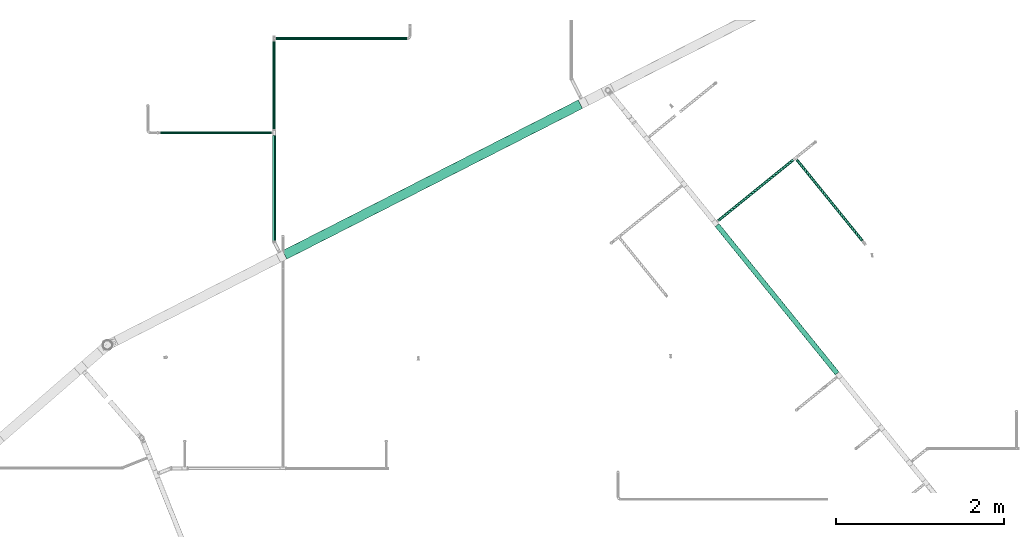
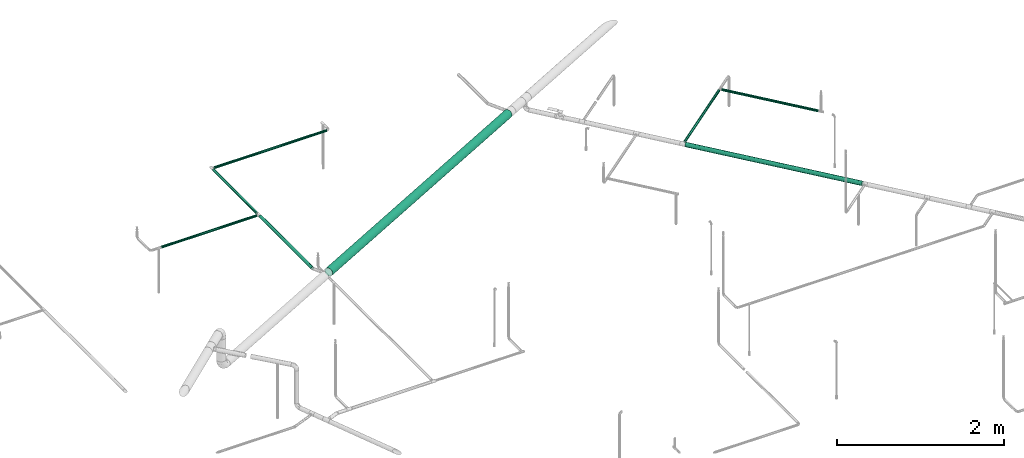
# One storey, part 5 of 94: 8 flow segments.
"""IFC2X3 building model written with IfcOpenShell, lengths in millimetres."""

from ifc_helpers import new_model, entity, si_unit, converted_unit, derived_unit, direction, frame, origin_with_axes, origin_2d_with_axis, place, context, subcontext, project, spatial, hollow_circle, extrude, source, transform, mapped, type_object, element, save


model = new_model("IFC2X3")

# Units and contexts
model_context = context("Model", 3, precision=0.01, world=frame((0.0, 4.29681676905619e-09, 0.0)), true_north=direction((4.01073788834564e-13, 1.0)))
plan_context = context("Plan", 3, precision=0.01, world=frame((0.0, 4.29681676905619e-09, 0.0)), true_north=direction((4.01073788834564e-13, 1.0)))
body_context = subcontext(model_context, "Body", "Model", "MODEL_VIEW")
ifc_project = project(units=[converted_unit("PLANEANGLEUNIT", "DEGREE", entity("IfcPositiveLengthMeasure", 0.0174532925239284), si_unit("PLANEANGLEUNIT", "RADIAN"), dimensions=[0, 0, 0, 0, 0, 0, 0]), si_unit("AREAUNIT", "SQUARE_METRE"), si_unit("LENGTHUNIT", "METRE", prefix="MILLI"), si_unit("MASSUNIT", "GRAM", prefix="KILO"), si_unit("POWERUNIT", "WATT"), si_unit("PRESSUREUNIT", "PASCAL", prefix="KILO"), si_unit("FORCEUNIT", "NEWTON", prefix="KILO"), si_unit("ELECTRICVOLTAGEUNIT", "VOLT"), si_unit("ELECTRICCURRENTUNIT", "AMPERE"), si_unit("THERMODYNAMICTEMPERATUREUNIT", "DEGREE_CELSIUS"), si_unit("TIMEUNIT", "SECOND"), si_unit("VOLUMEUNIT", "CUBIC_METRE"), derived_unit("LINEARVELOCITYUNIT", [(si_unit("LENGTHUNIT", "METRE"), 1), (si_unit("TIMEUNIT", "SECOND"), -1)]), derived_unit("VOLUMETRICFLOWRATEUNIT", [(si_unit("VOLUMEUNIT", "CUBIC_METRE"), 1), (si_unit("TIMEUNIT", "SECOND"), -1)]), derived_unit("THERMALTRANSMITTANCEUNIT", [(si_unit("POWERUNIT", "WATT"), 1), (si_unit("THERMODYNAMICTEMPERATUREUNIT", "KELVIN"), -1), (si_unit("AREAUNIT", "SQUARE_METRE"), -1)]), derived_unit("SOUNDPRESSUREUNIT", [(si_unit("PRESSUREUNIT", "PASCAL"), 1)])], contexts=[model_context, plan_context])

# Site, building, storey
site_placement = place(None, frame((0.0, -4.29681676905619e-09, 0.0), z_axis=(0.0, 0.0, 1.0), x_axis=(1.0, 0.0, 0.0)))
site = spatial("IfcSite", under=ifc_project, at=site_placement, CompositionType="ELEMENT")
building_placement = place(site_placement, frame((0.0, 4.29681676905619e-09, 0.0), z_axis=(0.0, 0.0, 1.0), x_axis=(1.0, 0.0, 0.0)))
building = spatial("IfcBuilding", under=site, at=building_placement, Name="mc-building", CompositionType="ELEMENT")
storey_placement = place(building_placement, frame((0.0, 0.0, 210900.0), z_axis=(0.0, 0.0, 1.0), x_axis=(1.0, 0.0, 0.0)))
storey = spatial("IfcBuildingStorey", under=building, at=storey_placement, Name="Nivå F", CompositionType="ELEMENT", Elevation=210900.0)

# Flow segments
pipe_segment_type = type_object("IfcPipeSegmentType", Name="Stålrør normaltykke", PredefinedType="RIGIDSEGMENT")
shared_shape_1 = source(origin_with_axes(), body_context, "Body", "SweptSolid", [
    extrude(hollow_circle(Radius=57.1, WallThickness=2.0, at=origin_2d_with_axis()), frame((0.0, 0.0, 0.0), z_axis=(1.0, 0.0, 0.0), x_axis=(0.0, 1.0, 0.0)), (0.0, 0.0, 1.0), 3945.7),
])
flow_segment_1_placement = place(storey_placement, frame((720410.61837, 443417.68045, 3650.0), z_axis=(0.0, 0.0, 1.0), x_axis=(0.891006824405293, 0.453989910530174, 0.0)))
element("IfcFlowSegment", 1, at=flow_segment_1_placement, inside=storey, type_object=pipe_segment_type, Name="Stålrør normaltykke", context=body_context, shape_type="MappedRepresentation", body=[
    mapped(shared_shape_1, transform((0.0, 0.0, 0.0), scale=1.0)),
])
shared_shape_2 = source(origin_with_axes(), body_context, "Body", "SweptSolid", [
    extrude(hollow_circle(Radius=16.9, WallThickness=2.0, at=origin_2d_with_axis()), frame((0.0, 0.0, 0.0), z_axis=(1.0, 0.0, 0.0), x_axis=(0.0, 1.0, 0.0)), (0.0, 0.0, 1.0), 1238.5),
])
flow_segment_2_placement = place(storey_placement, frame((726501.38794, 444548.90176, 3500.0), z_axis=(0.0, 0.0, 1.0), x_axis=(0.629320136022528, -0.777146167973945, 0.0)))
element("IfcFlowSegment", 2, at=flow_segment_2_placement, inside=storey, type_object=pipe_segment_type, Name="Stålrør normaltykke", context=body_context, shape_type="MappedRepresentation", body=[
    mapped(shared_shape_2, transform((0.0, 0.0, 0.0), scale=1.0)),
])
shared_shape_3 = source(origin_with_axes(), body_context, "Body", "SweptSolid", [
    extrude(hollow_circle(Radius=16.9, WallThickness=2.0, at=origin_2d_with_axis()), frame((0.0, 0.0, 0.0), z_axis=(1.0, 0.0, 0.0), x_axis=(0.0, 1.0, 0.0)), (0.0, 0.0, 1.0), 1147.2),
])
flow_segment_3_placement = place(storey_placement, frame((725567.63023, 443825.37903, 3500.0), z_axis=(0.0, 0.0, 1.0), x_axis=(0.777146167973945, 0.629320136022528, 0.0)))
element("IfcFlowSegment", 3, at=flow_segment_3_placement, inside=storey, type_object=pipe_segment_type, Name="Stålrør normaltykke", context=body_context, shape_type="MappedRepresentation", body=[
    mapped(shared_shape_3, transform((0.0, 0.0, 0.0), scale=1.0)),
])
shared_shape_4 = source(origin_with_axes(), body_context, "Body", "SweptSolid", [
    extrude(hollow_circle(Radius=30.1, WallThickness=2.0, at=origin_2d_with_axis()), frame((0.0, 0.0, 0.0), z_axis=(1.0, 0.0, 0.0), x_axis=(0.0, 1.0, 0.0)), (0.0, 0.0, 1.0), 2268.0),
])
flow_segment_4_placement = place(storey_placement, frame((725553.69655, 443770.60328, 3500.0), z_axis=(0.0, 0.0, 1.0), x_axis=(0.629320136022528, -0.777146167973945, 0.0)))
element("IfcFlowSegment", 4, at=flow_segment_4_placement, inside=storey, type_object=pipe_segment_type, Name="Stålrør normaltykke", context=body_context, shape_type="MappedRepresentation", body=[
    mapped(shared_shape_4, transform((0.0, 0.0, 0.0), scale=1.0)),
])
shared_shape_5 = source(origin_with_axes(), body_context, "Body", "SweptSolid", [
    extrude(hollow_circle(Radius=21.2, WallThickness=2.0, at=origin_2d_with_axis()), frame((0.0, 0.0, 0.0), z_axis=(1.0, 0.0, 0.0), x_axis=(0.0, 1.0, 0.0)), (0.0, 0.0, 1.0), 1251.6),
])
flow_segment_5_placement = place(storey_placement, frame((720283.33546, 443584.27253, 3650.0), z_axis=(0.0, 0.0, 1.0), x_axis=(0.0, 1.0, 0.0)))
element("IfcFlowSegment", 5, at=flow_segment_5_placement, inside=storey, type_object=pipe_segment_type, Name="Stålrør normaltykke", context=body_context, shape_type="MappedRepresentation", body=[
    mapped(shared_shape_5, transform((0.0, 0.0, 0.0), scale=1.0)),
])
shared_shape_6 = source(origin_with_axes(), body_context, "Body", "SweptSolid", [
    extrude(hollow_circle(Radius=16.9, WallThickness=2.0, at=origin_2d_with_axis()), frame((0.0, 0.0, 0.0), z_axis=(1.0, 0.0, 0.0), x_axis=(0.0, 1.0, 0.0)), (0.0, 0.0, 1.0), 1557.7),
])
flow_segment_6_placement = place(storey_placement, frame((720308.68546, 445990.49682, 3650.0), z_axis=(0.0, 0.0, 1.0), x_axis=(1.0, 0.0, 0.0)))
element("IfcFlowSegment", 6, at=flow_segment_6_placement, inside=storey, type_object=pipe_segment_type, Name="Stålrør normaltykke", context=body_context, shape_type="MappedRepresentation", body=[
    mapped(shared_shape_6, transform((0.0, 0.0, 0.0), scale=1.0)),
])
shared_shape_7 = source(origin_with_axes(), body_context, "Body", "SweptSolid", [
    extrude(hollow_circle(Radius=16.9, WallThickness=2.0, at=origin_2d_with_axis()), frame((0.0, 0.0, 0.0), z_axis=(1.0, 0.0, 0.0), x_axis=(0.0, 1.0, 0.0)), (0.0, 0.0, 1.0), 1044.6),
])
flow_segment_7_placement = place(storey_placement, frame((720283.33546, 444912.10099, 3650.0), z_axis=(0.0, 0.0, 1.0), x_axis=(0.0, 1.0, 0.0)))
element("IfcFlowSegment", 7, at=flow_segment_7_placement, inside=storey, type_object=pipe_segment_type, Name="Stålrør normaltykke", context=body_context, shape_type="MappedRepresentation", body=[
    mapped(shared_shape_7, transform((0.0, 0.0, 0.0), scale=1.0)),
])
shared_shape_8 = source(origin_with_axes(), body_context, "Body", "SweptSolid", [
    extrude(hollow_circle(Radius=16.9, WallThickness=2.0, at=origin_2d_with_axis()), frame((0.0, 0.0, 0.0), z_axis=(1.0, 0.0, 0.0), x_axis=(0.0, 1.0, 0.0)), (0.0, 0.0, 1.0), 1318.0),
])
flow_segment_8_placement = place(storey_placement, frame((720251.53546, 444869.70099, 3650.0), z_axis=(0.0, 0.0, 1.0), x_axis=(-1.0, 0.0, 0.0)))
element("IfcFlowSegment", 8, at=flow_segment_8_placement, inside=storey, type_object=pipe_segment_type, Name="Stålrør normaltykke", context=body_context, shape_type="MappedRepresentation", body=[
    mapped(shared_shape_8, transform((0.0, 0.0, 0.0), scale=1.0)),
])

save(model, "model.ifc")
